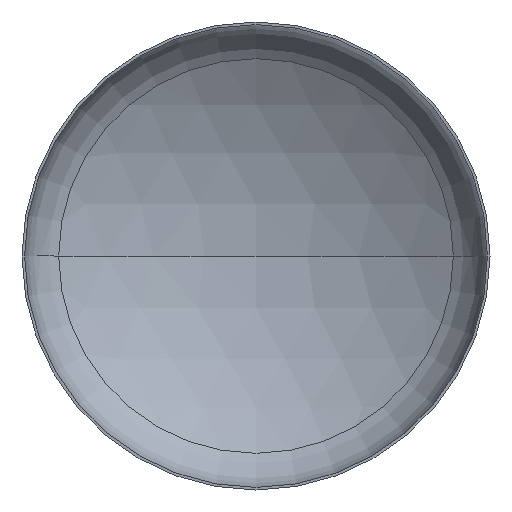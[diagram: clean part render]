
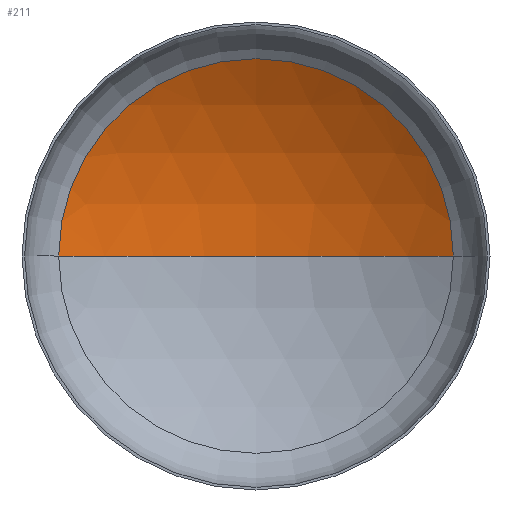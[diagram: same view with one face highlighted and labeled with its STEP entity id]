
A CAD part, front view. The second image highlights one B-rep face of the part: STEP entity #211.
In plain terms, the highlighted spherical face has radius 4000 mm.
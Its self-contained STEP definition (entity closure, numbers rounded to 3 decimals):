
#7 = AXIS2_PLACEMENT_3D ( 'NONE', #83, #116, #118 ) ;
#17 = AXIS2_PLACEMENT_3D ( 'NONE', #259, #97, #80 ) ;
#21 = VERTEX_POINT ( 'NONE', #219 ) ;
#22 = CARTESIAN_POINT ( 'NONE',  ( 2107.74, 739.427, 0. ) ) ;
#62 = AXIS2_PLACEMENT_3D ( 'NONE', #234, #172, #230 ) ;
#67 = AXIS2_PLACEMENT_3D ( 'NONE', #192, #178, #176 ) ;
#80 = DIRECTION ( 'NONE',  ( -1., 0., 0. ) ) ;
#83 = CARTESIAN_POINT ( 'NONE',  ( 0., -2660.195, 0. ) ) ;
#88 = EDGE_LOOP ( 'NONE', ( #292, #387, #103 ) ) ;
#96 = EDGE_CURVE ( 'NONE', #138, #21, #125, .T. ) ;
#97 = DIRECTION ( 'NONE',  ( 0., 0., -1. ) ) ;
#103 = ORIENTED_EDGE ( 'NONE', *, *, #96, .T. ) ;
#116 = DIRECTION ( 'NONE',  ( 0., 0., 1. ) ) ;
#118 = DIRECTION ( 'NONE',  ( 1., 0., 0. ) ) ;
#125 = CIRCLE ( 'NONE', #67, 2107.74 ) ;
#138 = VERTEX_POINT ( 'NONE', #22 ) ;
#172 = DIRECTION ( 'NONE',  ( 0., 0., -1. ) ) ;
#176 = DIRECTION ( 'NONE',  ( 1., 0., 0. ) ) ;
#178 = DIRECTION ( 'NONE',  ( 0., -1., 0. ) ) ;
#192 = CARTESIAN_POINT ( 'NONE',  ( 0., 739.427, 0. ) ) ;
#211 = ADVANCED_FACE ( 'NONE', ( #316 ), #251, .F. ) ;
#219 = CARTESIAN_POINT ( 'NONE',  ( -2107.74, 739.427, 0. ) ) ;
#222 = CIRCLE ( 'NONE', #17, 4000. ) ;
#229 = VERTEX_POINT ( 'NONE', #252 ) ;
#230 = DIRECTION ( 'NONE',  ( -1., 0., 0. ) ) ;
#234 = CARTESIAN_POINT ( 'NONE',  ( 0., -2660.195, 0. ) ) ;
#251 = SPHERICAL_SURFACE ( 'NONE', #62, 4000. ) ;
#252 = CARTESIAN_POINT ( 'NONE',  ( 0., 1339.805, 0. ) ) ;
#259 = CARTESIAN_POINT ( 'NONE',  ( 0., -2660.195, 0. ) ) ;
#291 = CIRCLE ( 'NONE', #7, 4000. ) ;
#292 = ORIENTED_EDGE ( 'NONE', *, *, #362, .F. ) ;
#316 = FACE_OUTER_BOUND ( 'NONE', #88, .T. ) ;
#359 = EDGE_CURVE ( 'NONE', #229, #138, #222, .T. ) ;
#362 = EDGE_CURVE ( 'NONE', #229, #21, #291, .T. ) ;
#387 = ORIENTED_EDGE ( 'NONE', *, *, #359, .T. ) ;
